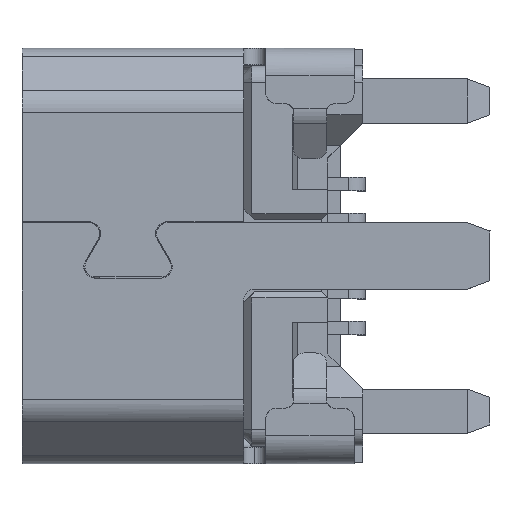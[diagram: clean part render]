
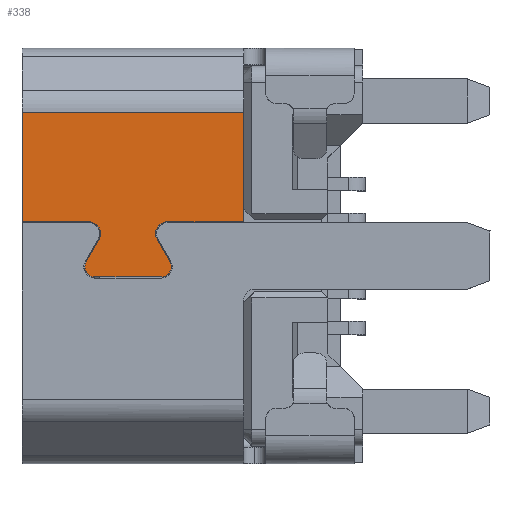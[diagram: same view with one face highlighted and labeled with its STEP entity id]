
A CAD part, top view. The second image highlights one B-rep face of the part: STEP entity #338.
In plain terms, the highlighted planar face has unit normal (0, 0, 1).
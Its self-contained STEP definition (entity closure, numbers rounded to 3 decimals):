
#338 = ADVANCED_FACE ( 'NONE', ( #9898 ), #12580, .T. ) ;
#3308 = EDGE_CURVE ( 'NONE', #12520, #12141, #6739, .T. ) ;
#3327 = EDGE_CURVE ( 'NONE', #12101, #12098, #6763, .T. ) ;
#3332 = EDGE_CURVE ( 'NONE', #12098, #12529, #6767, .T. ) ;
#3334 = EDGE_CURVE ( 'NONE', #12097, #12102, #6764, .T. ) ;
#3338 = EDGE_CURVE ( 'NONE', #12102, #12103, #6782, .T. ) ;
#3345 = EDGE_CURVE ( 'NONE', #12103, #12106, #6756, .T. ) ;
#3351 = EDGE_CURVE ( 'NONE', #12141, #12101, #6769, .T. ) ;
#3358 = EDGE_CURVE ( 'NONE', #12504, #12099, #6833, .T. ) ;
#3375 = EDGE_CURVE ( 'NONE', #12106, #12051, #6816, .T. ) ;
#3378 = EDGE_CURVE ( 'NONE', #12099, #12097, #6828, .T. ) ;
#4886 = DIRECTION ( 'NONE',  ( 0., -1., 0. ) ) ;
#4912 = CARTESIAN_POINT ( 'NONE',  ( -0.4, 3.75, 1.24 ) ) ;
#5575 = DIRECTION ( 'NONE',  ( 0., 0., -1. ) ) ;
#5582 = DIRECTION ( 'NONE',  ( 1., 0., 0. ) ) ;
#5583 = CARTESIAN_POINT ( 'NONE',  ( 0.8, 0.4, 1.24 ) ) ;
#5593 = CARTESIAN_POINT ( 'NONE',  ( 2.231, 0.4, 1.24 ) ) ;
#5594 = DIRECTION ( 'NONE',  ( 1., 0., 0. ) ) ;
#5600 = DIRECTION ( 'NONE',  ( 1., 0., 0. ) ) ;
#5610 = DIRECTION ( 'NONE',  ( 0., 0., 1. ) ) ;
#5613 = CARTESIAN_POINT ( 'NONE',  ( 0.915, -0.2, 1.24 ) ) ;
#5624 = CARTESIAN_POINT ( 'NONE',  ( 3.68, -0.38, 1.24 ) ) ;
#5630 = DIRECTION ( 'NONE',  ( 0., 1., 0. ) ) ;
#5634 = CARTESIAN_POINT ( 'NONE',  ( 2.115, -0.2, 1.24 ) ) ;
#5642 = DIRECTION ( 'NONE',  ( 1., 0., 0. ) ) ;
#5654 = DIRECTION ( 'NONE',  ( 1., 0., 0. ) ) ;
#5658 = CARTESIAN_POINT ( 'NONE',  ( 3.6, -0.439, 1.24 ) ) ;
#5663 = DIRECTION ( 'NONE',  ( 0., 0., -1. ) ) ;
#5664 = CARTESIAN_POINT ( 'NONE',  ( 3.68, 0.62, 1.24 ) ) ;
#5679 = CARTESIAN_POINT ( 'NONE',  ( 0.991, 0.29, 1.24 ) ) ;
#5704 = DIRECTION ( 'NONE',  ( 0., 0., 1. ) ) ;
#5711 = DIRECTION ( 'NONE',  ( -0.5, -0.866, 0. ) ) ;
#5712 = DIRECTION ( 'NONE',  ( 1., 0., 0. ) ) ;
#5730 = CARTESIAN_POINT ( 'NONE',  ( 2.271, -0.11, 1.24 ) ) ;
#5739 = DIRECTION ( 'NONE',  ( -0.5, 0.866, 0. ) ) ;
#5754 = CARTESIAN_POINT ( 'NONE',  ( 3.68, 2.594, 1.24 ) ) ;
#5756 = DIRECTION ( 'NONE',  ( -1., 0., 0. ) ) ;
#5827 = CARTESIAN_POINT ( 'NONE',  ( 3.68, 0.62, 1.24 ) ) ;
#5836 = DIRECTION ( 'NONE',  ( 1., 0., 0. ) ) ;
#6077 = LINE ( 'NONE', #5827, #6084 ) ;
#6084 = VECTOR ( 'NONE', #5836, 1000. ) ;
#6282 = LINE ( 'NONE', #4912, #6323 ) ;
#6323 = VECTOR ( 'NONE', #4886, 1000. ) ;
#6351 = CIRCLE ( 'NONE', #10200, 0.22 ) ;
#6410 = CIRCLE ( 'NONE', #10201, 0.18 ) ;
#6739 = CIRCLE ( 'NONE', #10153, 0.22 ) ;
#6756 = LINE ( 'NONE', #5658, #6784 ) ;
#6763 = CIRCLE ( 'NONE', #10167, 0.18 ) ;
#6764 = CIRCLE ( 'NONE', #10163, 0.22 ) ;
#6767 = LINE ( 'NONE', #5624, #6780 ) ;
#6769 = LINE ( 'NONE', #5679, #6821 ) ;
#6780 = VECTOR ( 'NONE', #5600, 1000. ) ;
#6782 = LINE ( 'NONE', #5664, #6788 ) ;
#6784 = VECTOR ( 'NONE', #5630, 1000. ) ;
#6788 = VECTOR ( 'NONE', #5654, 1000. ) ;
#6816 = LINE ( 'NONE', #5754, #6855 ) ;
#6821 = VECTOR ( 'NONE', #5711, 1000. ) ;
#6828 = LINE ( 'NONE', #5730, #6859 ) ;
#6833 = CIRCLE ( 'NONE', #10125, 0.18 ) ;
#6855 = VECTOR ( 'NONE', #5756, 1000. ) ;
#6859 = VECTOR ( 'NONE', #5739, 1000. ) ;
#6990 = CARTESIAN_POINT ( 'NONE',  ( 1.02, 0.4, 1.24 ) ) ;
#7016 = CARTESIAN_POINT ( 'NONE',  ( 2.295, -0.2, 1.24 ) ) ;
#7018 = CARTESIAN_POINT ( 'NONE',  ( 2.115, -0.38, 1.24 ) ) ;
#7024 = CARTESIAN_POINT ( 'NONE',  ( 0.8, 0.62, 1.24 ) ) ;
#7200 = DIRECTION ( 'NONE',  ( 1., 0., 0. ) ) ;
#7225 = CARTESIAN_POINT ( 'NONE',  ( 0.8, 0.4, 1.24 ) ) ;
#7231 = DIRECTION ( 'NONE',  ( 0., 0., -1. ) ) ;
#7295 = DIRECTION ( 'NONE',  ( 1., 0., 0. ) ) ;
#7310 = CARTESIAN_POINT ( 'NONE',  ( 2.115, -0.2, 1.24 ) ) ;
#7325 = DIRECTION ( 'NONE',  ( 0., 0., 1. ) ) ;
#7506 = CARTESIAN_POINT ( 'NONE',  ( -0.4, 2.594, 1.24 ) ) ;
#7559 = CARTESIAN_POINT ( 'NONE',  ( 0.76, -0.11, 1.24 ) ) ;
#7574 = CARTESIAN_POINT ( 'NONE',  ( 3.6, 2.594, 1.24 ) ) ;
#7586 = CARTESIAN_POINT ( 'NONE',  ( 2.04, 0.29, 1.24 ) ) ;
#7594 = CARTESIAN_POINT ( 'NONE',  ( 2.231, 0.62, 1.24 ) ) ;
#7611 = CARTESIAN_POINT ( 'NONE',  ( 3.6, 0.62, 1.24 ) ) ;
#7620 = CARTESIAN_POINT ( 'NONE',  ( 0.915, -0.38, 1.24 ) ) ;
#7621 = CARTESIAN_POINT ( 'NONE',  ( 2.271, -0.11, 1.24 ) ) ;
#7631 = CARTESIAN_POINT ( 'NONE',  ( 0.991, 0.29, 1.24 ) ) ;
#7711 = CARTESIAN_POINT ( 'NONE',  ( -0.4, 0.62, 1.24 ) ) ;
#7950 = EDGE_CURVE ( 'NONE', #12227, #12535, #6077, .T. ) ;
#8648 = ORIENTED_EDGE ( 'NONE', *, *, #3375, .T. ) ;
#8685 = ORIENTED_EDGE ( 'NONE', *, *, #3345, .T. ) ;
#8686 = ORIENTED_EDGE ( 'NONE', *, *, #3338, .T. ) ;
#8696 = ORIENTED_EDGE ( 'NONE', *, *, #10331, .T. ) ;
#8723 = ORIENTED_EDGE ( 'NONE', *, *, #7950, .T. ) ;
#8729 = ORIENTED_EDGE ( 'NONE', *, *, #3334, .T. ) ;
#8732 = ORIENTED_EDGE ( 'NONE', *, *, #3308, .T. ) ;
#8740 = ORIENTED_EDGE ( 'NONE', *, *, #3358, .T. ) ;
#8744 = ORIENTED_EDGE ( 'NONE', *, *, #10379, .T. ) ;
#8748 = ORIENTED_EDGE ( 'NONE', *, *, #3332, .T. ) ;
#8754 = ORIENTED_EDGE ( 'NONE', *, *, #3378, .T. ) ;
#8756 = ORIENTED_EDGE ( 'NONE', *, *, #3327, .T. ) ;
#8793 = ORIENTED_EDGE ( 'NONE', *, *, #10422, .T. ) ;
#8797 = ORIENTED_EDGE ( 'NONE', *, *, #3351, .T. ) ;
#9453 = EDGE_LOOP ( 'NONE', ( #8686, #8685, #8648, #8696, #8723, #8744, #8732, #8797, #8756, #8748, #8793, #8740, #8754, #8729 ) ) ;
#9898 = FACE_OUTER_BOUND ( 'NONE', #9453, .T. ) ;
#10125 = AXIS2_PLACEMENT_3D ( 'NONE', #5634, #5704, #5712 ) ;
#10153 = AXIS2_PLACEMENT_3D ( 'NONE', #5583, #5575, #5582 ) ;
#10163 = AXIS2_PLACEMENT_3D ( 'NONE', #5593, #5663, #5642 ) ;
#10167 = AXIS2_PLACEMENT_3D ( 'NONE', #5613, #5610, #5594 ) ;
#10200 = AXIS2_PLACEMENT_3D ( 'NONE', #7225, #7231, #7200 ) ;
#10201 = AXIS2_PLACEMENT_3D ( 'NONE', #7310, #7325, #7295 ) ;
#10331 = EDGE_CURVE ( 'NONE', #12051, #12227, #6282, .T. ) ;
#10379 = EDGE_CURVE ( 'NONE', #12535, #12520, #6351, .T. ) ;
#10422 = EDGE_CURVE ( 'NONE', #12529, #12504, #6410, .T. ) ;
#10453 = AXIS2_PLACEMENT_3D ( 'NONE', #12589, #12597, #12593 ) ;
#12051 = VERTEX_POINT ( 'NONE', #7506 ) ;
#12097 = VERTEX_POINT ( 'NONE', #7586 ) ;
#12098 = VERTEX_POINT ( 'NONE', #7620 ) ;
#12099 = VERTEX_POINT ( 'NONE', #7621 ) ;
#12101 = VERTEX_POINT ( 'NONE', #7559 ) ;
#12102 = VERTEX_POINT ( 'NONE', #7594 ) ;
#12103 = VERTEX_POINT ( 'NONE', #7611 ) ;
#12106 = VERTEX_POINT ( 'NONE', #7574 ) ;
#12141 = VERTEX_POINT ( 'NONE', #7631 ) ;
#12227 = VERTEX_POINT ( 'NONE', #7711 ) ;
#12504 = VERTEX_POINT ( 'NONE', #7016 ) ;
#12520 = VERTEX_POINT ( 'NONE', #6990 ) ;
#12529 = VERTEX_POINT ( 'NONE', #7018 ) ;
#12535 = VERTEX_POINT ( 'NONE', #7024 ) ;
#12580 = PLANE ( 'NONE',  #10453 ) ;
#12589 = CARTESIAN_POINT ( 'NONE',  ( 3.68, -0.439, 1.24 ) ) ;
#12593 = DIRECTION ( 'NONE',  ( 1., 0., 0. ) ) ;
#12597 = DIRECTION ( 'NONE',  ( 0., 0., 1. ) ) ;
